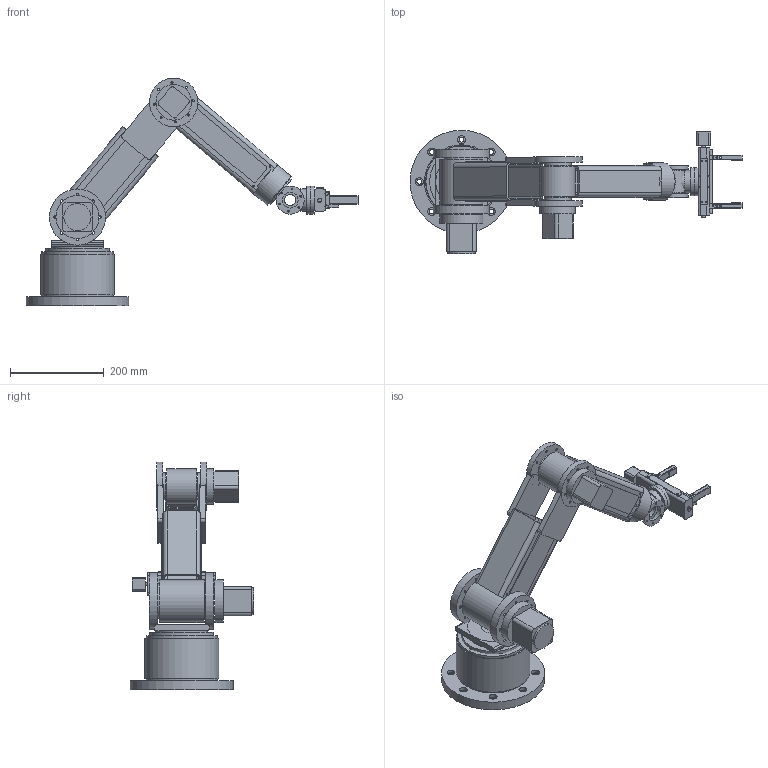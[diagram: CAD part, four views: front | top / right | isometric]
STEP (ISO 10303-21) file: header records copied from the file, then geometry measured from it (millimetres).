
FILE_DESCRIPTION(('Open CASCADE Model'),'2;1');
FILE_NAME('Open CASCADE Shape Model','2026-10-17T16:45:08',('Author'),( 'Open CASCADE'),'Open CASCADE STEP processor 8.0','build123d', 'Unknown');
FILE_SCHEMA(('AUTOMOTIVE_DESIGN { 1 0 10303 214 1 1 1 1 }'));
Length unit declared in the file: millimetre
Products named in the file (55): COMPOUND; base_mounting_plate; fixed_base_riser; j1_slew_bearing_envelope; base_electronics_cover; turret_neck; turret_bridge; shoulder_fork_-1; shoulder_bearing_-1; shoulder_fork_+1; shoulder_bearing_+1; j2_gearbox_envelope; j2_motor_envelope; j2_motor_endcap; shoulder_rotor; shoulder_output_shaft; upper_arm_hollow_link; elbow_fork_bridge_-1; elbow_fork_bridge_+1; upper_service_cover_-1; elbow_fork_-1; elbow_bearing_-1; upper_service_cover_+1; elbow_fork_+1; elbow_bearing_+1; j3_gearbox_envelope; j3_motor_envelope; elbow_rotor; elbow_output_shaft; forearm_hollow_link; forearm_service_cover_-1; forearm_service_cover_+1; wrist_roll_stator; j4_bearing_envelope; wrist_roll_rotor; wrist_roll_cover; wrist_pitch_fork_-1; wrist_pitch_fork_+1; wrist_pitch_rotor; wrist_pitch_neck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
Assembly tree (54 placements, depth 2):
  COMPOUND
    base_mounting_plate
    fixed_base_riser
    j1_slew_bearing_envelope
    base_electronics_cover
    turret_neck
    turret_bridge
    shoulder_fork_-1
    shoulder_bearing_-1
    shoulder_fork_+1
    shoulder_bearing_+1
    j2_gearbox_envelope
    j2_motor_envelope
    j2_motor_endcap
    shoulder_rotor
    shoulder_output_shaft
    upper_arm_hollow_link
    elbow_fork_bridge_-1
    elbow_fork_bridge_+1
    upper_service_cover_-1
    elbow_fork_-1
    elbow_bearing_-1
    upper_service_cover_+1
    elbow_fork_+1
    elbow_bearing_+1
    j3_gearbox_envelope
    j3_motor_envelope
    elbow_rotor
    elbow_output_shaft
    forearm_hollow_link
    forearm_service_cover_-1
    forearm_service_cover_+1
    wrist_roll_stator
    j4_bearing_envelope
    wrist_roll_rotor
    wrist_roll_cover
    wrist_pitch_fork_-1
    wrist_pitch_fork_+1
    wrist_pitch_rotor
    wrist_pitch_neck
    j6_stator_envelope
    tool_flange_6xM5_PCD46
    interchangeable_gripper_adapter
    gripper_pocketed_body
    gripper_top_service_cover
    gripper_guide_rod_-14
    gripper_guide_rod_+14
    opposite_hand_screw_envelope
    gripper_actuator_envelope
    gripper_jaw_carriage_-1
    gripper_finger_-1
    gripper_contact_pad_-1
    gripper_jaw_carriage_+1
    gripper_finger_+1
    gripper_contact_pad_+1
Bounding box: 709.66 x 264 x 487.13 mm (x, y, z)
Volume: 5042125.4 mm3; surface area: 1204341.5 mm2
Topology: 54 solids, 54 shells, 561 faces, 1391 edges, 926 vertices
Faces by surface type: cylinder 317, plane 244
Full cylindrical faces by diameter (mm): 3.4 x32, 3.6 x12, 4.4 x22, 4.5 x4, 5.4 x16, 5.5 x18, 6.4 x6, 7 x2, 7.2 x4, 8 x1, 8.4 x2, 8.6 x2, 10.5 x8, 16 x2, 17 x8, 20 x2, 22 x1, 24 x1, 30 x2, 30.2 x1, 34 x3, 38 x1, 39.6 x1, 40 x3, 44 x1, 47 x1, 48 x3, 50 x1, 54 x2, 56 x3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
Entity records: 42401 total; most frequent: CARTESIAN_POINT 12706, DIRECTION 5567, ORIENTED_EDGE 2782, PCURVE 2782, DEFINITIONAL_REPRESENTATION 2782, LINE 2585, VECTOR 2585, EDGE_CURVE 1391
